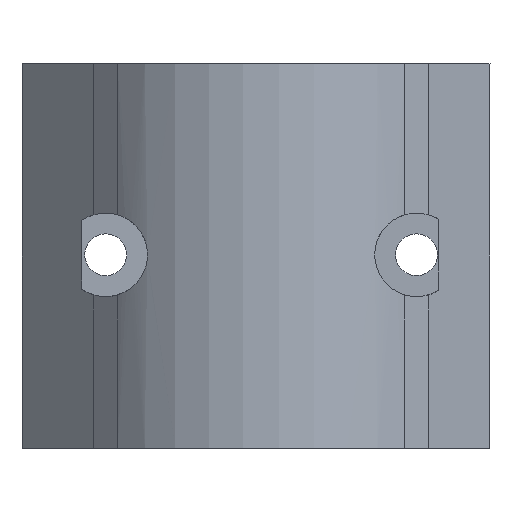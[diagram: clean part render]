
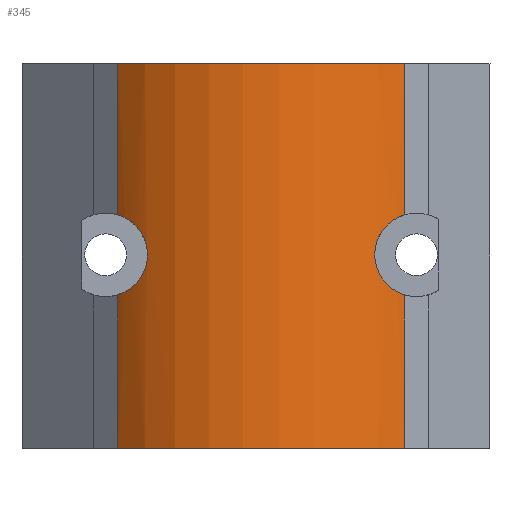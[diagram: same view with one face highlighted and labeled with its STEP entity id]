
A CAD part, left-side view. The second image highlights one B-rep face of the part: STEP entity #345.
In plain terms, the highlighted cylindrical face has radius 17.022 mm (diameter 34.044 mm), a partial arc.
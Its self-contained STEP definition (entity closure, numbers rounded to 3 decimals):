
#19=B_SPLINE_CURVE_WITH_KNOTS('',3,(#541,#542,#543,#544,#545,#546,#547,
#548,#549,#550,#551,#552,#553,#554,#555,#556,#557,#558,#559),
 .UNSPECIFIED.,.F.,.F.,(4,2,2,2,3,2,2,2,4),(2.459,2.503,
2.689,2.817,2.945,3.073,3.201,
3.387,3.431),.UNSPECIFIED.);
#20=B_SPLINE_CURVE_WITH_KNOTS('',3,(#574,#575,#576,#577,#578,#579,#580,
#581,#582,#583,#584,#585,#586,#587,#588,#589,#590,#591),.UNSPECIFIED.,.F.,
 .F.,(4,2,2,2,2,2,2,2,4),(0.986,1.03,1.216,
1.344,1.473,1.601,1.729,1.915,
1.959),.UNSPECIFIED.);
#33=CYLINDRICAL_SURFACE('',#394,17.022);
#51=FACE_OUTER_BOUND('',#71,.T.);
#71=EDGE_LOOP('',(#287,#288,#289,#290,#291,#292,#293,#294));
#88=LINE('',#599,#116);
#92=LINE('',#607,#120);
#96=LINE('',#614,#124);
#101=LINE('',#630,#129);
#116=VECTOR('',#456,10.);
#120=VECTOR('',#464,10.);
#124=VECTOR('',#470,10.);
#129=VECTOR('',#489,10.);
#136=CIRCLE('',#368,17.022);
#143=CIRCLE('',#395,17.022);
#149=VERTEX_POINT('',#519);
#150=VERTEX_POINT('',#521);
#157=VERTEX_POINT('',#538);
#158=VERTEX_POINT('',#540);
#164=VERTEX_POINT('',#571);
#165=VERTEX_POINT('',#573);
#170=VERTEX_POINT('',#612);
#174=VERTEX_POINT('',#628);
#181=EDGE_CURVE('',#149,#150,#136,.T.);
#190=EDGE_CURVE('',#158,#157,#19,.T.);
#197=EDGE_CURVE('',#165,#164,#20,.T.);
#202=EDGE_CURVE('',#150,#157,#88,.T.);
#206=EDGE_CURVE('',#149,#165,#92,.T.);
#210=EDGE_CURVE('',#164,#170,#96,.T.);
#217=EDGE_CURVE('',#174,#170,#143,.T.);
#218=EDGE_CURVE('',#158,#174,#101,.T.);
#287=ORIENTED_EDGE('',*,*,#190,.T.);
#288=ORIENTED_EDGE('',*,*,#202,.F.);
#289=ORIENTED_EDGE('',*,*,#181,.F.);
#290=ORIENTED_EDGE('',*,*,#206,.T.);
#291=ORIENTED_EDGE('',*,*,#197,.T.);
#292=ORIENTED_EDGE('',*,*,#210,.T.);
#293=ORIENTED_EDGE('',*,*,#217,.F.);
#294=ORIENTED_EDGE('',*,*,#218,.F.);
#345=ADVANCED_FACE('',(#51),#33,.T.);
#368=AXIS2_PLACEMENT_3D('',#522,#414,#415);
#394=AXIS2_PLACEMENT_3D('',#627,#485,#486);
#395=AXIS2_PLACEMENT_3D('',#629,#487,#488);
#414=DIRECTION('center_axis',(0.,1.,0.));
#415=DIRECTION('ref_axis',(-0.709,0.,0.705));
#456=DIRECTION('',(0.,-1.,0.));
#464=DIRECTION('',(0.,-1.,0.));
#470=DIRECTION('',(0.,-1.,0.));
#485=DIRECTION('center_axis',(0.,1.,0.));
#486=DIRECTION('ref_axis',(-0.709,0.,0.705));
#487=DIRECTION('center_axis',(0.,-1.,0.));
#488=DIRECTION('ref_axis',(-0.709,0.,0.705));
#489=DIRECTION('',(0.,-1.,0.));
#519=CARTESIAN_POINT('',(-198.,206.2,-312.));
#521=CARTESIAN_POINT('',(-198.,206.2,-288.));
#522=CARTESIAN_POINT('Origin',(-185.927,206.2,-300.));
#538=CARTESIAN_POINT('',(-198.,193.354,-288.));
#540=CARTESIAN_POINT('',(-198.,186.646,-288.));
#541=CARTESIAN_POINT('Ctrl Pts',(-198.,186.646,-288.));
#542=CARTESIAN_POINT('Ctrl Pts',(-198.107,186.678,-288.108));
#543=CARTESIAN_POINT('Ctrl Pts',(-198.212,186.716,-288.217));
#544=CARTESIAN_POINT('Ctrl Pts',(-198.748,186.949,-288.785));
#545=CARTESIAN_POINT('Ctrl Pts',(-199.125,187.254,-289.24));
#546=CARTESIAN_POINT('Ctrl Pts',(-199.604,187.948,-289.861));
#547=CARTESIAN_POINT('Ctrl Pts',(-199.773,188.311,-290.097));
#548=CARTESIAN_POINT('Ctrl Pts',(-199.997,189.124,-290.417));
#549=CARTESIAN_POINT('Ctrl Pts',(-200.052,189.573,-290.5));
#550=CARTESIAN_POINT('Ctrl Pts',(-200.052,190.,-290.5));
#551=CARTESIAN_POINT('Ctrl Pts',(-200.052,190.427,-290.5));
#552=CARTESIAN_POINT('Ctrl Pts',(-199.997,190.876,-290.417));
#553=CARTESIAN_POINT('Ctrl Pts',(-199.773,191.689,-290.097));
#554=CARTESIAN_POINT('Ctrl Pts',(-199.604,192.052,-289.861));
#555=CARTESIAN_POINT('Ctrl Pts',(-199.125,192.746,-289.24));
#556=CARTESIAN_POINT('Ctrl Pts',(-198.748,193.051,-288.785));
#557=CARTESIAN_POINT('Ctrl Pts',(-198.212,193.284,-288.217));
#558=CARTESIAN_POINT('Ctrl Pts',(-198.107,193.322,-288.108));
#559=CARTESIAN_POINT('Ctrl Pts',(-198.,193.354,-288.));
#571=CARTESIAN_POINT('',(-198.,186.646,-312.));
#573=CARTESIAN_POINT('',(-198.,193.354,-312.));
#574=CARTESIAN_POINT('Ctrl Pts',(-198.,193.354,-312.));
#575=CARTESIAN_POINT('Ctrl Pts',(-198.107,193.322,-311.892));
#576=CARTESIAN_POINT('Ctrl Pts',(-198.212,193.284,-311.783));
#577=CARTESIAN_POINT('Ctrl Pts',(-198.748,193.051,-311.215));
#578=CARTESIAN_POINT('Ctrl Pts',(-199.125,192.746,-310.76));
#579=CARTESIAN_POINT('Ctrl Pts',(-199.604,192.052,-310.139));
#580=CARTESIAN_POINT('Ctrl Pts',(-199.773,191.689,-309.903));
#581=CARTESIAN_POINT('Ctrl Pts',(-199.997,190.876,-309.583));
#582=CARTESIAN_POINT('Ctrl Pts',(-200.052,190.427,-309.5));
#583=CARTESIAN_POINT('Ctrl Pts',(-200.052,189.573,-309.5));
#584=CARTESIAN_POINT('Ctrl Pts',(-199.997,189.124,-309.583));
#585=CARTESIAN_POINT('Ctrl Pts',(-199.773,188.311,-309.903));
#586=CARTESIAN_POINT('Ctrl Pts',(-199.604,187.948,-310.139));
#587=CARTESIAN_POINT('Ctrl Pts',(-199.125,187.254,-310.76));
#588=CARTESIAN_POINT('Ctrl Pts',(-198.748,186.949,-311.215));
#589=CARTESIAN_POINT('Ctrl Pts',(-198.212,186.716,-311.783));
#590=CARTESIAN_POINT('Ctrl Pts',(-198.107,186.678,-311.892));
#591=CARTESIAN_POINT('Ctrl Pts',(-198.,186.646,-312.));
#599=CARTESIAN_POINT('',(-198.,180.,-288.));
#607=CARTESIAN_POINT('',(-198.,180.,-312.));
#612=CARTESIAN_POINT('',(-198.,174.,-312.));
#614=CARTESIAN_POINT('',(-198.,180.,-312.));
#627=CARTESIAN_POINT('Origin',(-185.927,180.,-300.));
#628=CARTESIAN_POINT('',(-198.,174.,-288.));
#629=CARTESIAN_POINT('Origin',(-185.927,174.,-300.));
#630=CARTESIAN_POINT('',(-198.,180.,-288.));
